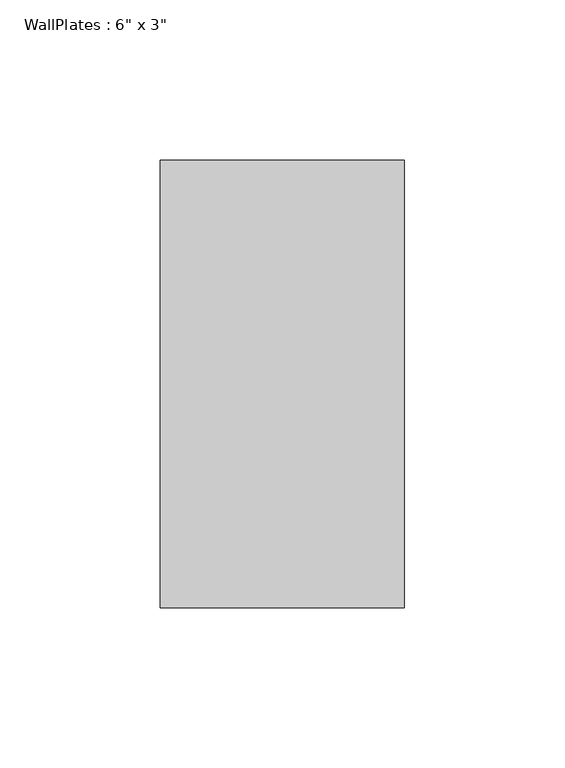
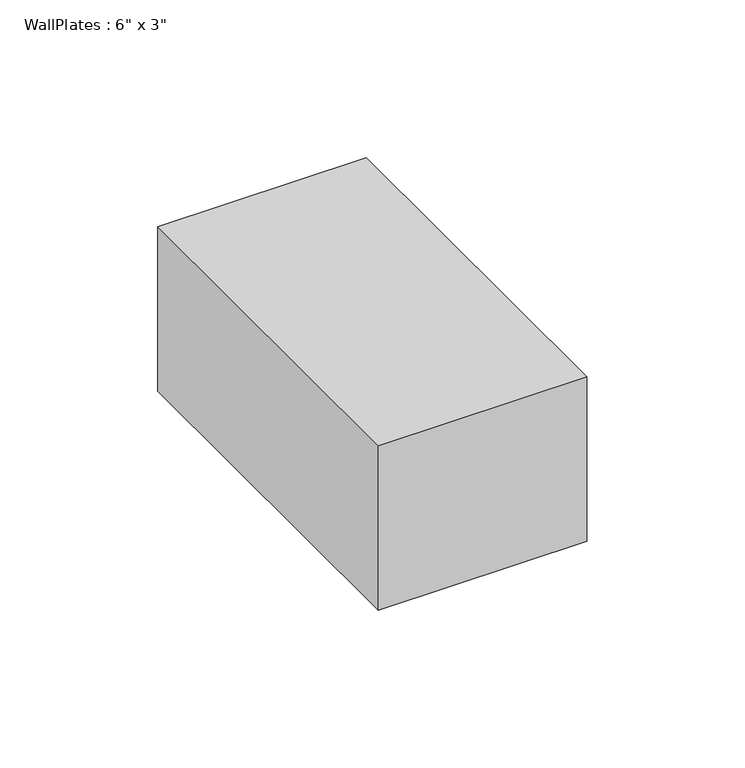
"""IFC4 building model written with IfcOpenShell, lengths in millimetres: beam geometry."""

from ifc_helpers import new_model, si_unit, frame, origin, place, context, project, spatial, polyline, outline, extrude, source, transform, mapped, element, save


def beam_b4be7421(model_context):
    return source(origin(), model_context, "Body", "SweptSolid", [
        extrude(outline(polyline([(-38.11, -69.85), (-38.11, 69.85), (38.11, 69.85), (38.11, -69.85), (-38.11, -69.85)])), frame((0.0, 0.0, -31.75), z_axis=(0.0, 0.0, 1.0), x_axis=(1.0, 0.0, 0.0)), (0.0, 0.0, 1.0), 63.5),
    ])


if __name__ == "__main__":
    model = new_model("IFC4")
    model_context = context("Model", 3, world=origin())
    ifc_project = project(units=[si_unit("LENGTHUNIT", "METRE", prefix="MILLI")], contexts=[model_context])
    site = spatial("IfcSite", under=ifc_project)
    building = spatial("IfcBuilding", under=site)
    placement = place(None, origin())
    beam_shape = beam_b4be7421(model_context)
    element("IfcBeam", 1, ObjectType="WallPlates : 6\" x 3\"", at=placement, inside=building, context=model_context, shape_type="MappedRepresentation", body=[
        mapped(beam_shape, transform((0.0, 0.0, 0.0), x_axis=(1.0, 0.0, 0.0), y_axis=(0.0, 1.0, 0.0), z_axis=(0.0, 0.0, 1.0))),
    ])
    save(model, "model.ifc")
